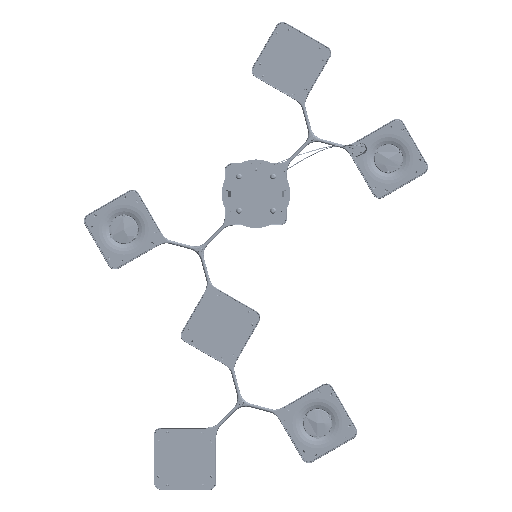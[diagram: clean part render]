
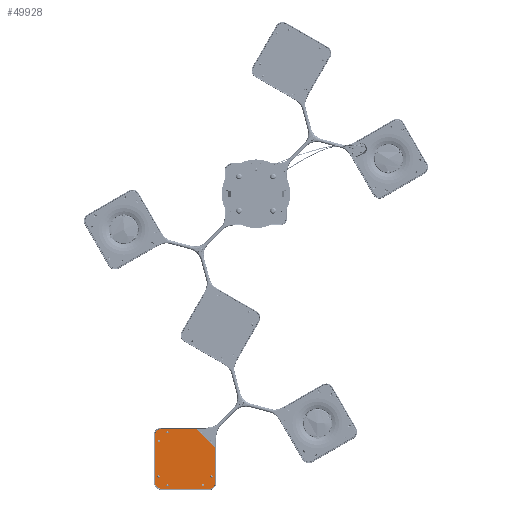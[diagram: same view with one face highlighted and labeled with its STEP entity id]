
A CAD part, top view. The second image highlights one B-rep face of the part: STEP entity #49928.
In plain terms, the highlighted planar face has unit normal (0, 0, 1).
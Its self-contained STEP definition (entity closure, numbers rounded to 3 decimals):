
#2374=CIRCLE('',#53165,1.75);
#2375=CIRCLE('',#53166,1.75);
#2376=CIRCLE('',#53167,1.75);
#2377=CIRCLE('',#53168,1.75);
#2378=CIRCLE('',#53169,1.75);
#2379=CIRCLE('',#53170,1.75);
#2380=CIRCLE('',#53171,15.);
#2381=CIRCLE('',#53172,15.);
#2382=CIRCLE('',#53173,15.);
#12524=ORIENTED_EDGE('',*,*,#19064,.F.);
#12525=ORIENTED_EDGE('',*,*,#19065,.F.);
#12526=ORIENTED_EDGE('',*,*,#19066,.F.);
#12527=ORIENTED_EDGE('',*,*,#19067,.F.);
#12528=ORIENTED_EDGE('',*,*,#19068,.F.);
#12529=ORIENTED_EDGE('',*,*,#19069,.F.);
#12530=ORIENTED_EDGE('',*,*,#19070,.T.);
#12531=ORIENTED_EDGE('',*,*,#19056,.F.);
#12532=ORIENTED_EDGE('',*,*,#19071,.T.);
#12533=ORIENTED_EDGE('',*,*,#19072,.F.);
#12534=ORIENTED_EDGE('',*,*,#19073,.T.);
#12535=ORIENTED_EDGE('',*,*,#19074,.F.);
#12536=ORIENTED_EDGE('',*,*,#19075,.T.);
#12537=ORIENTED_EDGE('',*,*,#19062,.F.);
#19056=EDGE_CURVE('',#22865,#22866,#25577,.T.);
#19062=EDGE_CURVE('',#22871,#22872,#25583,.T.);
#19064=EDGE_CURVE('',#22873,#22873,#2374,.T.);
#19065=EDGE_CURVE('',#22874,#22874,#2375,.T.);
#19066=EDGE_CURVE('',#22875,#22875,#2376,.T.);
#19067=EDGE_CURVE('',#22876,#22876,#2377,.T.);
#19068=EDGE_CURVE('',#22877,#22877,#2378,.T.);
#19069=EDGE_CURVE('',#22878,#22878,#2379,.T.);
#19070=EDGE_CURVE('',#22871,#22866,#25585,.T.);
#19071=EDGE_CURVE('',#22865,#22879,#2380,.F.);
#19072=EDGE_CURVE('',#22880,#22879,#25586,.T.);
#19073=EDGE_CURVE('',#22880,#22881,#2381,.F.);
#19074=EDGE_CURVE('',#22882,#22881,#25587,.T.);
#19075=EDGE_CURVE('',#22882,#22872,#2382,.F.);
#22865=VERTEX_POINT('',#85849);
#22866=VERTEX_POINT('',#85850);
#22871=VERTEX_POINT('',#85861);
#22872=VERTEX_POINT('',#85863);
#22873=VERTEX_POINT('',#85867);
#22874=VERTEX_POINT('',#85869);
#22875=VERTEX_POINT('',#85871);
#22876=VERTEX_POINT('',#85873);
#22877=VERTEX_POINT('',#85875);
#22878=VERTEX_POINT('',#85877);
#22879=VERTEX_POINT('',#85880);
#22880=VERTEX_POINT('',#85882);
#22881=VERTEX_POINT('',#85884);
#22882=VERTEX_POINT('',#85886);
#25577=LINE('',#85848,#28066);
#25583=LINE('',#85862,#28072);
#25585=LINE('',#85878,#28074);
#25586=LINE('',#85881,#28075);
#25587=LINE('',#85885,#28076);
#28066=VECTOR('',#61209,1000.);
#28072=VECTOR('',#61217,1000.);
#28074=VECTOR('',#61233,1000.);
#28075=VECTOR('',#61236,1000.);
#28076=VECTOR('',#61239,1000.);
#30683=EDGE_LOOP('',(#12524));
#30684=EDGE_LOOP('',(#12525));
#30685=EDGE_LOOP('',(#12526));
#30686=EDGE_LOOP('',(#12527));
#30687=EDGE_LOOP('',(#12528));
#30688=EDGE_LOOP('',(#12529));
#30689=EDGE_LOOP('',(#12530,#12531,#12532,#12533,#12534,#12535,#12536,#12537));
#33519=FACE_BOUND('',#30683,.T.);
#33520=FACE_BOUND('',#30684,.T.);
#33521=FACE_BOUND('',#30685,.T.);
#33522=FACE_BOUND('',#30686,.T.);
#33523=FACE_BOUND('',#30687,.T.);
#33524=FACE_BOUND('',#30688,.T.);
#33525=FACE_BOUND('',#30689,.T.);
#34933=PLANE('',#53164);
#49928=ADVANCED_FACE('',(#33519,#33520,#33521,#33522,#33523,#33524,#33525),
#34933,.F.);
#53164=AXIS2_PLACEMENT_3D('',#85865,#61219,#61220);
#53165=AXIS2_PLACEMENT_3D('',#85866,#61221,#61222);
#53166=AXIS2_PLACEMENT_3D('',#85868,#61223,#61224);
#53167=AXIS2_PLACEMENT_3D('',#85870,#61225,#61226);
#53168=AXIS2_PLACEMENT_3D('',#85872,#61227,#61228);
#53169=AXIS2_PLACEMENT_3D('',#85874,#61229,#61230);
#53170=AXIS2_PLACEMENT_3D('',#85876,#61231,#61232);
#53171=AXIS2_PLACEMENT_3D('',#85879,#61234,#61235);
#53172=AXIS2_PLACEMENT_3D('',#85883,#61237,#61238);
#53173=AXIS2_PLACEMENT_3D('',#85887,#61240,#61241);
#61209=DIRECTION('',(0.,1.,0.));
#61217=DIRECTION('',(1.,0.,0.));
#61219=DIRECTION('',(0.,0.,-1.));
#61220=DIRECTION('',(-1.,0.,0.));
#61221=DIRECTION('',(0.,0.,1.));
#61222=DIRECTION('',(0.,-1.,0.));
#61223=DIRECTION('',(0.,0.,1.));
#61224=DIRECTION('',(0.,-1.,0.));
#61225=DIRECTION('',(0.,0.,1.));
#61226=DIRECTION('',(-1.,0.,0.));
#61227=DIRECTION('',(0.,0.,1.));
#61228=DIRECTION('',(-1.,0.,0.));
#61229=DIRECTION('',(0.,0.,1.));
#61230=DIRECTION('',(1.,0.,0.));
#61231=DIRECTION('',(0.,0.,1.));
#61232=DIRECTION('',(1.,0.,0.));
#61233=DIRECTION('',(-0.707,-0.707,0.));
#61234=DIRECTION('',(0.,0.,-1.));
#61235=DIRECTION('',(-1.,0.,0.));
#61236=DIRECTION('',(-1.,0.,0.));
#61237=DIRECTION('',(0.,0.,-1.));
#61238=DIRECTION('',(-1.,0.,0.));
#61239=DIRECTION('',(0.,-1.,0.));
#61240=DIRECTION('',(0.,0.,-1.));
#61241=DIRECTION('',(-1.,0.,0.));
#85848=CARTESIAN_POINT('',(-72.,-72.,1.));
#85849=CARTESIAN_POINT('',(-72.,-57.,1.));
#85850=CARTESIAN_POINT('',(-72.,26.,1.));
#85861=CARTESIAN_POINT('',(-26.,72.,1.));
#85862=CARTESIAN_POINT('',(-72.,72.,1.));
#85863=CARTESIAN_POINT('',(57.,72.,1.));
#85865=CARTESIAN_POINT('',(0.,0.,1.));
#85866=CARTESIAN_POINT('',(63.64,-42.426,1.));
#85867=CARTESIAN_POINT('',(63.64,-44.176,1.));
#85868=CARTESIAN_POINT('',(42.426,-63.64,1.));
#85869=CARTESIAN_POINT('',(42.426,-65.39,1.));
#85870=CARTESIAN_POINT('',(-42.426,-63.64,1.));
#85871=CARTESIAN_POINT('',(-44.176,-63.64,1.));
#85872=CARTESIAN_POINT('',(-63.64,-42.426,1.));
#85873=CARTESIAN_POINT('',(-65.39,-42.426,1.));
#85874=CARTESIAN_POINT('',(42.426,63.64,1.));
#85875=CARTESIAN_POINT('',(44.176,63.64,1.));
#85876=CARTESIAN_POINT('',(63.64,42.426,1.));
#85877=CARTESIAN_POINT('',(65.39,42.426,1.));
#85878=CARTESIAN_POINT('',(-26.,72.,1.));
#85879=CARTESIAN_POINT('',(-57.,-57.,1.));
#85880=CARTESIAN_POINT('',(-57.,-72.,1.));
#85881=CARTESIAN_POINT('',(72.,-72.,1.));
#85882=CARTESIAN_POINT('',(57.,-72.,1.));
#85883=CARTESIAN_POINT('',(57.,-57.,1.));
#85884=CARTESIAN_POINT('',(72.,-57.,1.));
#85885=CARTESIAN_POINT('',(72.,72.,1.));
#85886=CARTESIAN_POINT('',(72.,57.,1.));
#85887=CARTESIAN_POINT('',(57.,57.,1.));
